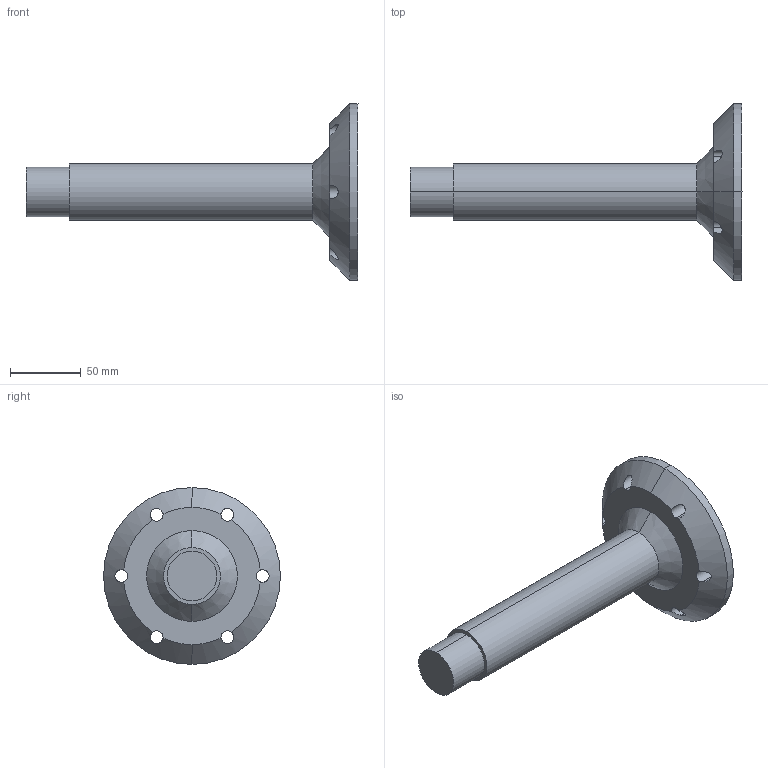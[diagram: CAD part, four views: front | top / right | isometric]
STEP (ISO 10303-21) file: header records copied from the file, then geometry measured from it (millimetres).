
FILE_DESCRIPTION (( 'STEP AP214' ), '1' );
FILE_NAME ('IRB4400_60-195_IRC5_rev02_LINK06_CAD.STEP', '2016-11-03T06:48:49', ( 'ABB' ), ( 'ABB' ), 'SwSTEP 2.0', 'SolidWorks 2014', '' );
FILE_SCHEMA (( 'AUTOMOTIVE_DESIGN' ));
Length unit declared in the file: millimetre
Products named in the file (1): IRB4400_60-195_IRC5_rev02_LINK06_CAD
Bounding box: 234.75 x 125 x 125 mm (x, y, z)
Volume: 448446.8 mm3; surface area: 58951.6 mm2
Topology: 1 solids, 1 shells, 33 faces, 96 edges, 61 vertices
Faces by surface type: cylinder 22, cone 6, plane 5
Entity records: 1435 total; most frequent: CARTESIAN_POINT 461, DIRECTION 200, ORIENTED_EDGE 188, EDGE_CURVE 94, AXIS2_PLACEMENT_3D 86, VERTEX_POINT 61, CIRCLE 52, EDGE_LOOP 43
